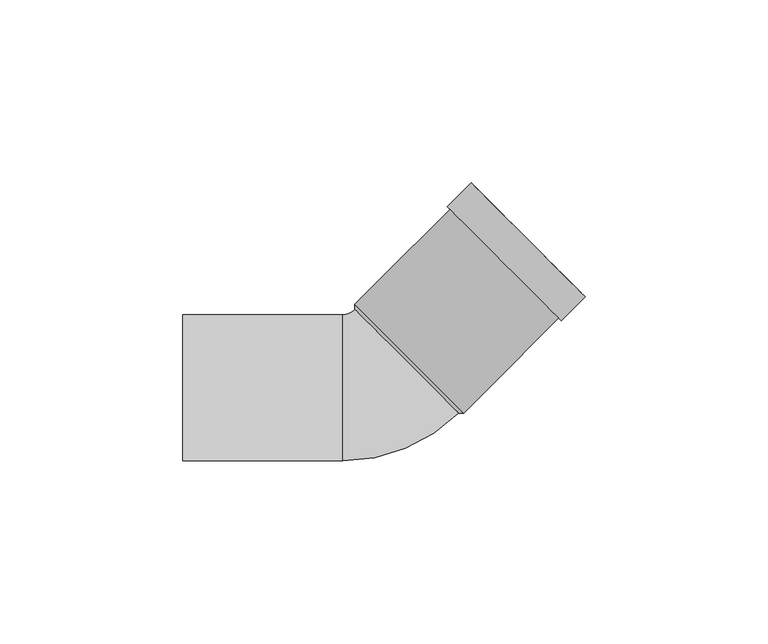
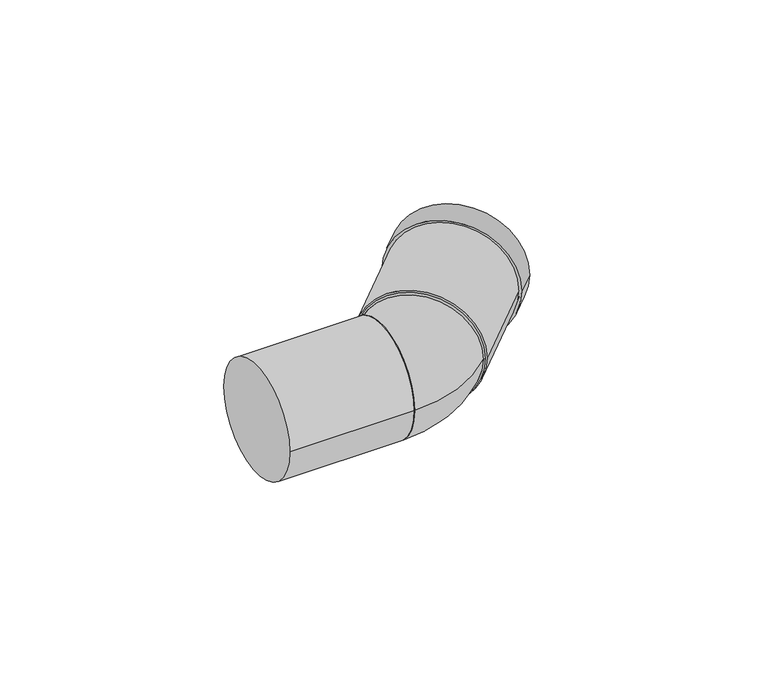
"""IFC4 building model written with IfcOpenShell, lengths in millimetres: pipe fitting geometry, Superdrain HT bend : Superdrain HT Bend."""

from ifc_helpers import new_model, si_unit, point, frame, origin, origin_2d, place, context, project, spatial, polyline, circle_curve, ellipse_curve, trimmed, segment, composite_curve, outline, extrude, source, transform, mapped, element, save
from ifc_brep_helpers import plane_surface, revolved_surface, advanced_brep


def pipe_fitting_22db930d(model_context):
    return source(origin(), model_context, "Body", "SolidModel", [
        advanced_brep(
        [(21.3546248, -6.9296465, 0.0), (-6.9296465, 21.3546248, 0.0), (-10.2, -20.0, 0.0), (-10.2, 20.0, 0.0)],
        [
            (0, 1, circle_curve(frame((7.2124892, 7.2124892, 0.0), z_axis=(0.707106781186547, 0.707106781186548, 0.0), x_axis=(-0.707106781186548, 0.707106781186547, 0.0)), 20.0)),
            (1, 0, circle_curve(frame((7.2124892, 7.2124892, 0.0), z_axis=(0.7071067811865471, 0.7071067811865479, 0.0), x_axis=(-0.7071067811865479, 0.7071067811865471, 0.0)), 20.0)),
            (2, 3, circle_curve(frame((-10.2, 0.0, 0.0), z_axis=(-1.0, 0.0, 0.0), x_axis=(0.0, 1.0, 0.0)), 20.0)),
            (3, 2, circle_curve(frame((-10.2, 0.0, 0.0), z_axis=(-1.0, 0.0, 0.0), x_axis=(0.0, 1.0, 0.0)), 20.0)),
            (3, 1, circle_curve(frame((-10.2, 24.6249783, 0.0), z_axis=(0.0, 0.0, 1.0), x_axis=(1.0, 0.0, 0.0)), 4.6249783)),
            (0, 2, circle_curve(frame((-10.2, 24.6249783, 0.0), z_axis=(0.0, 0.0, -1.0), x_axis=(1.0, 0.0, 0.0)), 44.6249783)),
        ],
        [
            plane_surface(frame((7.2124892, 7.2124892, 0.0), z_axis=(0.707106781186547, 0.707106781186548, 0.0), x_axis=(0.0, 0.0, -1.0))),
            plane_surface(frame((-10.2, 0.0, 0.0), z_axis=(-1.0, 0.0, 0.0), x_axis=(0.0, 0.0, -1.0))),
            revolved_surface(trimmed(ellipse_curve(frame((14.4249783, 24.6249783, 0.0), z_axis=(0.0, -1.0, 0.0), x_axis=(-1.0, 0.0, 0.0)), 20.0, 20.0), [point((-5.5750217, 24.6249783, 0.0))], [point((34.4249783, 24.6249783, 0.0))], True, "CARTESIAN"), (-10.2, 24.6249783, 0.0), (0.0, 0.0, 1.0)),
            revolved_surface(trimmed(ellipse_curve(frame((14.4249783, 24.6249783, 0.0), z_axis=(0.0, -1.0, 0.0), x_axis=(-1.0, 0.0, 0.0)), 20.0, 20.0), [point((34.4249783, 24.6249783, 0.0))], [point((-5.5750217, 24.6249783, 0.0))], True, "CARTESIAN"), (-10.2, 24.6249783, 0.0), (0.0, 0.0, 1.0)),
        ],
        [
            (0, [[1, 2]]),
            (1, [[3, 4]]),
            (2, [[-4, 5, -1, 6]]),
            (3, [[-3, -6, -2, -5]]),
        ],
    ),
        extrude(outline(composite_curve([segment(trimmed(circle_curve(origin_2d(), 21.0), [point((0.0, 21.0000001))], [point((0.0, -21.0000001))], False, "CARTESIAN"), True, "CONTINUOUS"), segment(trimmed(circle_curve(origin_2d(), 21.0), [point((0.0, -21.0000001))], [point((0.0, 21.0000001))], False, "CARTESIAN"), True, "CONTINUOUS")], self_intersect=False), holes=[composite_curve([segment(trimmed(circle_curve(origin_2d(), 20.0), [point((0.0, 20.0))], [point((0.0, -20.0))], True, "CARTESIAN"), True, "CONTINUOUS"), segment(trimmed(circle_curve(origin_2d(), 20.0), [point((0.0, -20.0))], [point((0.0, 20.0))], True, "CARTESIAN"), True, "CONTINUOUS")], self_intersect=False)]), frame((7.9195959, 7.9195959, 0.0), z_axis=(0.7071067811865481, 0.707106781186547, 0.0), x_axis=(0.0, 0.0, 1.0)), (0.0, 0.0, 1.0), 46.0),
        extrude(outline(composite_curve([segment(trimmed(circle_curve(origin_2d(), 22.05), [point((0.0, -22.05))], [point((0.0, 22.05))], False, "CARTESIAN"), True, "CONTINUOUS"), segment(trimmed(circle_curve(origin_2d(), 22.05), [point((0.0, 22.05))], [point((0.0, -22.05))], False, "CARTESIAN"), True, "CONTINUOUS")], self_intersect=False), holes=[composite_curve([segment(trimmed(circle_curve(origin_2d(), 20.0), [point((0.0, -20.0))], [point((0.0, 20.0))], True, "CARTESIAN"), True, "CONTINUOUS"), segment(trimmed(circle_curve(origin_2d(), 20.0), [point((0.0, 20.0))], [point((0.0, -20.0))], True, "CARTESIAN"), True, "CONTINUOUS")], self_intersect=False)]), frame((33.9411255, 33.9411255, 0.0), z_axis=(0.707106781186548, 0.707106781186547, 0.0), x_axis=(0.0, 0.0, 1.0)), (0.0, 0.0, 1.0), 9.2),
        advanced_brep(
        [(22.7688384, -6.9296465, 0.0), (-6.9296465, 22.7688384, 0.0), (21.3546248, -6.9296465, 0.0), (-6.9296465, 21.3546248, 0.0)],
        [
            (0, 1, circle_curve(frame((7.9195959, 7.9195959, 0.0), z_axis=(0.7071067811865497, 0.7071067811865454, 0.0), x_axis=(0.7071067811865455, -0.7071067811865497, 0.0)), 21.0)),
            (1, 0, circle_curve(frame((7.9195959, 7.9195959, 0.0), z_axis=(0.7071067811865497, 0.7071067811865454, 0.0), x_axis=(-0.7071067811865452, 0.7071067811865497, 0.0)), 21.0)),
            (2, 3, circle_curve(frame((7.2124892, 7.2124892, 0.0), z_axis=(-0.7071067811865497, -0.7071067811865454, 0.0), x_axis=(-0.7071067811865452, 0.7071067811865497, 0.0)), 20.0)),
            (3, 2, circle_curve(frame((7.2124892, 7.2124892, 0.0), z_axis=(-0.7071067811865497, -0.7071067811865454, 0.0), x_axis=(0.7071067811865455, -0.7071067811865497, 0.0)), 20.0)),
            (3, 1),
            (0, 2),
        ],
        [
            plane_surface(frame((7.9195959, 7.9195959, 0.0), z_axis=(0.707106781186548, 0.707106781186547, 0.0), x_axis=(0.0, 0.0, -1.0))),
            plane_surface(frame((7.2124892, 7.2124892, 0.0), z_axis=(-0.707106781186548, -0.707106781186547, 0.0), x_axis=(0.0, 0.0, -1.0))),
            revolved_surface(polyline([(-6.9296465, 21.354624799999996, 0.0), (-6.9296465, 22.768838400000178, 0.0)]), (-6.9296465, -6.9296465, 0.0), (0.7071067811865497, 0.7071067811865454, 0.0)),
            revolved_surface(polyline([(21.354624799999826, -6.9296465, 0.0), (22.7688384, -6.9296465, 0.0)]), (-6.9296465, -6.9296465, 0.0), (0.7071067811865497, 0.7071067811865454, 0.0)),
        ],
        [
            (0, [[1, 2]]),
            (1, [[3, 4]]),
            (2, [[-4, 5, -1, 6]]),
            (3, [[-3, -6, -2, -5]]),
        ],
    ),
        extrude(outline(composite_curve([segment(trimmed(circle_curve(origin_2d(), 20.0), [point((-20.0, 0.0))], [point((20.0, 0.0))], False, "CARTESIAN"), True, "CONTINUOUS"), segment(trimmed(circle_curve(origin_2d(), 20.0), [point((20.0, 0.0))], [point((-20.0, 0.0))], False, "CARTESIAN"), True, "CONTINUOUS")], self_intersect=False)), frame((-54.0, 0.0, 0.0), z_axis=(1.0, 0.0, 0.0), x_axis=(0.0, 1.0, 0.0)), (0.0, 0.0, 1.0), 43.8),
    ])


if __name__ == "__main__":
    model = new_model("IFC4")
    model_context = context("Model", 3, world=origin())
    ifc_project = project(units=[si_unit("LENGTHUNIT", "METRE", prefix="MILLI")], contexts=[model_context])
    site = spatial("IfcSite", under=ifc_project)
    building = spatial("IfcBuilding", under=site)
    placement = place(None, origin())
    pipe_fitting_shape = pipe_fitting_22db930d(model_context)
    element("IfcPipeFitting", 1, ObjectType="Superdrain HT bend : Superdrain HT Bend", at=placement, inside=building, context=model_context, shape_type="MappedRepresentation", body=[
        mapped(pipe_fitting_shape, transform((0.0, 0.0, 0.0), x_axis=(1.0, 0.0, 0.0), y_axis=(0.0, 1.0, 0.0), z_axis=(0.0, 0.0, 1.0))),
    ])
    save(model, "model.ifc")
